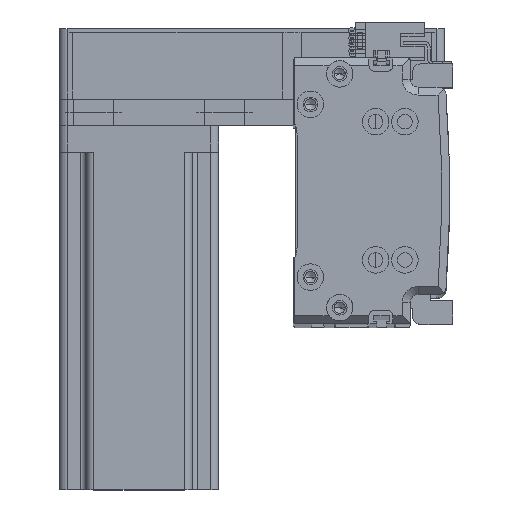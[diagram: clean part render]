
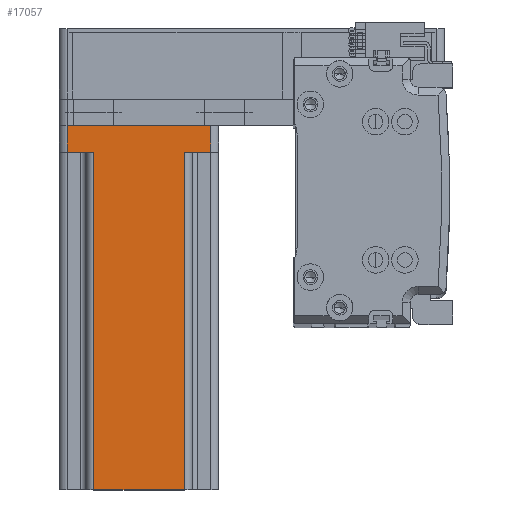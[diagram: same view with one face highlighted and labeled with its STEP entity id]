
A CAD part, top view. The second image highlights one B-rep face of the part: STEP entity #17057.
In plain terms, the highlighted planar face has unit normal (0, 0, 1) as drawn and (0, -1, 0) by its records, which use the part's own axes.
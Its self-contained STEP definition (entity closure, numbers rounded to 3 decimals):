
#947 = CARTESIAN_POINT ( 'NONE',  ( 17., -30., 137. ) ) ;
#953 = DIRECTION ( 'NONE',  ( 1., 0., 0. ) ) ;
#2155 = DIRECTION ( 'NONE',  ( 0., 0., -1. ) ) ;
#2210 = EDGE_CURVE ( 'NONE', #27218, #16387, #42786, .T. ) ;
#3212 = AXIS2_PLACEMENT_3D ( 'NONE', #28444, #4707, #32462 ) ;
#4142 = CARTESIAN_POINT ( 'NONE',  ( 27., -30., 0. ) ) ;
#4707 = DIRECTION ( 'NONE',  ( 0., 1., 0. ) ) ;
#4976 = DIRECTION ( 'NONE',  ( 0., 0., 1. ) ) ;
#5003 = ORIENTED_EDGE ( 'NONE', *, *, #14071, .F. ) ;
#5964 = CARTESIAN_POINT ( 'NONE',  ( -27., -30., 0. ) ) ;
#7349 = CARTESIAN_POINT ( 'NONE',  ( 27., -30., 10. ) ) ;
#7741 = EDGE_CURVE ( 'NONE', #20893, #46001, #21878, .T. ) ;
#8556 = VERTEX_POINT ( 'NONE', #22797 ) ;
#11072 = VECTOR ( 'NONE', #25614, 1000. ) ;
#11573 = VECTOR ( 'NONE', #2155, 1000. ) ;
#13501 = ORIENTED_EDGE ( 'NONE', *, *, #2210, .T. ) ;
#14071 = EDGE_CURVE ( 'NONE', #8556, #46001, #42400, .T. ) ;
#14210 = CARTESIAN_POINT ( 'NONE',  ( -17., -30., 137. ) ) ;
#15177 = LINE ( 'NONE', #28725, #44387 ) ;
#15809 = CARTESIAN_POINT ( 'NONE',  ( 20., -30., 10. ) ) ;
#16387 = VERTEX_POINT ( 'NONE', #7349 ) ;
#17057 = ADVANCED_FACE ( 'NONE', ( #50228 ), #44127, .F. ) ;
#17830 = EDGE_CURVE ( 'NONE', #19619, #35239, #32674, .T. ) ;
#19619 = VERTEX_POINT ( 'NONE', #33109 ) ;
#19794 = DIRECTION ( 'NONE',  ( -1., 0., 0. ) ) ;
#20867 = DIRECTION ( 'NONE',  ( 1., 0., 0. ) ) ;
#20893 = VERTEX_POINT ( 'NONE', #48673 ) ;
#21224 = VECTOR ( 'NONE', #20867, 1000. ) ;
#21232 = ORIENTED_EDGE ( 'NONE', *, *, #7741, .T. ) ;
#21878 = LINE ( 'NONE', #947, #41803 ) ;
#22608 = VECTOR ( 'NONE', #19794, 1000. ) ;
#22797 = CARTESIAN_POINT ( 'NONE',  ( -17., -30., 137. ) ) ;
#22970 = EDGE_CURVE ( 'NONE', #35239, #27218, #50654, .T. ) ;
#23180 = DIRECTION ( 'NONE',  ( 1., 0., 0. ) ) ;
#23964 = EDGE_LOOP ( 'NONE', ( #5003, #30522, #36491, #38955, #36650, #13501, #45321, #21232 ) ) ;
#25614 = DIRECTION ( 'NONE',  ( 0., 0., 1. ) ) ;
#25942 = CARTESIAN_POINT ( 'NONE',  ( 27., -30., 137. ) ) ;
#26111 = EDGE_CURVE ( 'NONE', #16387, #20893, #43790, .T. ) ;
#26411 = DIRECTION ( 'NONE',  ( 0., 0., -1. ) ) ;
#27218 = VERTEX_POINT ( 'NONE', #4142 ) ;
#28444 = CARTESIAN_POINT ( 'NONE',  ( 30., -30., 137. ) ) ;
#28725 = CARTESIAN_POINT ( 'NONE',  ( -20., -30., 10. ) ) ;
#29545 = VECTOR ( 'NONE', #23180, 1000. ) ;
#30522 = ORIENTED_EDGE ( 'NONE', *, *, #49427, .T. ) ;
#31859 = VERTEX_POINT ( 'NONE', #50882 ) ;
#32462 = DIRECTION ( 'NONE',  ( -1., 0., 0. ) ) ;
#32674 = LINE ( 'NONE', #41917, #11573 ) ;
#33109 = CARTESIAN_POINT ( 'NONE',  ( -27., -30., 10. ) ) ;
#34981 = CARTESIAN_POINT ( 'NONE',  ( 30., -30., 0. ) ) ;
#35239 = VERTEX_POINT ( 'NONE', #5964 ) ;
#36491 = ORIENTED_EDGE ( 'NONE', *, *, #39185, .F. ) ;
#36650 = ORIENTED_EDGE ( 'NONE', *, *, #22970, .T. ) ;
#37494 = VECTOR ( 'NONE', #26411, 1000. ) ;
#38955 = ORIENTED_EDGE ( 'NONE', *, *, #17830, .T. ) ;
#39185 = EDGE_CURVE ( 'NONE', #19619, #31859, #15177, .T. ) ;
#41803 = VECTOR ( 'NONE', #4976, 1000. ) ;
#41917 = CARTESIAN_POINT ( 'NONE',  ( -27., -30., 137. ) ) ;
#42226 = CARTESIAN_POINT ( 'NONE',  ( 17., -30., 137. ) ) ;
#42400 = LINE ( 'NONE', #48645, #21224 ) ;
#42786 = LINE ( 'NONE', #25942, #11072 ) ;
#43790 = LINE ( 'NONE', #15809, #22608 ) ;
#44127 = PLANE ( 'NONE',  #3212 ) ;
#44387 = VECTOR ( 'NONE', #953, 1000. ) ;
#45321 = ORIENTED_EDGE ( 'NONE', *, *, #26111, .T. ) ;
#46001 = VERTEX_POINT ( 'NONE', #42226 ) ;
#48037 = LINE ( 'NONE', #14210, #37494 ) ;
#48645 = CARTESIAN_POINT ( 'NONE',  ( 30., -30., 137. ) ) ;
#48673 = CARTESIAN_POINT ( 'NONE',  ( 17., -30., 10. ) ) ;
#49427 = EDGE_CURVE ( 'NONE', #8556, #31859, #48037, .T. ) ;
#50228 = FACE_OUTER_BOUND ( 'NONE', #23964, .T. ) ;
#50654 = LINE ( 'NONE', #34981, #29545 ) ;
#50882 = CARTESIAN_POINT ( 'NONE',  ( -17., -30., 10. ) ) ;
